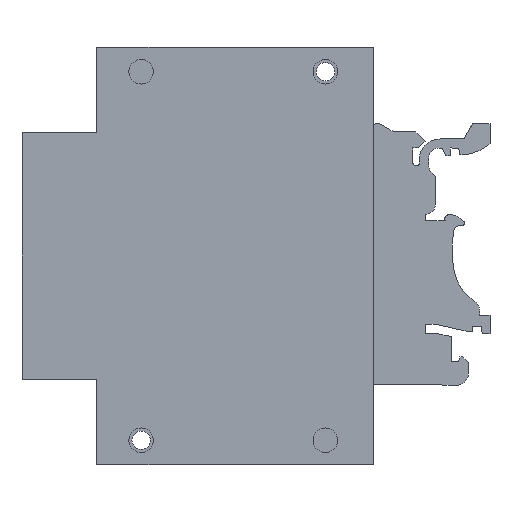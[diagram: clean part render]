
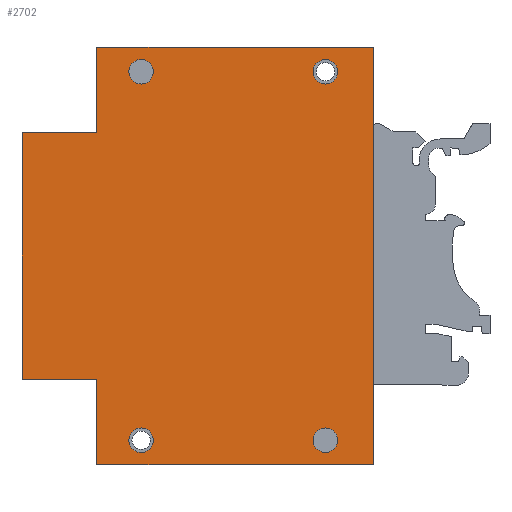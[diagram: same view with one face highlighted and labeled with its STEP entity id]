
A CAD part, left-side view. The second image highlights one B-rep face of the part: STEP entity #2702.
In plain terms, the highlighted planar face has unit normal (-1, 0, 0).
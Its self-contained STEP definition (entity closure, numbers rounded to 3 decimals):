
#245=DIRECTION('',(0.,0.,1.));
#246=VECTOR('',#245,68.);
#247=CARTESIAN_POINT('',(0.,0.,-34.));
#248=LINE('',#247,#246);
#440=DIRECTION('',(0.,0.,1.));
#441=VECTOR('',#440,13.9);
#442=CARTESIAN_POINT('',(0.,45.,-34.));
#443=LINE('',#442,#441);
#496=DIRECTION('',(0.,0.,1.));
#497=VECTOR('',#496,13.9);
#498=CARTESIAN_POINT('',(0.,45.,20.1));
#499=LINE('',#498,#497);
#896=DIRECTION('',(0.,1.,0.));
#897=VECTOR('',#896,12.2);
#898=CARTESIAN_POINT('',(0.,45.,20.1));
#899=LINE('',#898,#897);
#903=DIRECTION('',(0.,1.,0.));
#904=VECTOR('',#903,12.2);
#905=CARTESIAN_POINT('',(0.,45.,-20.1));
#906=LINE('',#905,#904);
#910=DIRECTION('',(0.,1.,0.));
#911=VECTOR('',#910,45.);
#912=CARTESIAN_POINT('',(0.,0.,-34.));
#913=LINE('',#912,#911);
#917=CARTESIAN_POINT('',(0.,7.8,-30.));
#918=DIRECTION('',(-1.,0.,0.));
#919=DIRECTION('',(0.,0.,1.));
#920=AXIS2_PLACEMENT_3D('',#917,#918,#919);
#925=CARTESIAN_POINT('',(0.,7.8,-30.));
#926=DIRECTION('',(-1.,0.,0.));
#927=DIRECTION('',(0.,0.,-1.));
#928=AXIS2_PLACEMENT_3D('',#925,#926,#927);
#933=CARTESIAN_POINT('',(0.,37.8,-30.));
#934=DIRECTION('',(-1.,0.,0.));
#935=DIRECTION('',(0.,0.,1.));
#936=AXIS2_PLACEMENT_3D('',#933,#934,#935);
#941=CARTESIAN_POINT('',(0.,37.8,-30.));
#942=DIRECTION('',(-1.,0.,0.));
#943=DIRECTION('',(0.,0.,-1.));
#944=AXIS2_PLACEMENT_3D('',#941,#942,#943);
#949=CARTESIAN_POINT('',(0.,37.8,30.));
#950=DIRECTION('',(-1.,0.,0.));
#951=DIRECTION('',(0.,0.,1.));
#952=AXIS2_PLACEMENT_3D('',#949,#950,#951);
#957=CARTESIAN_POINT('',(0.,37.8,30.));
#958=DIRECTION('',(-1.,0.,0.));
#959=DIRECTION('',(0.,0.,-1.));
#960=AXIS2_PLACEMENT_3D('',#957,#958,#959);
#965=CARTESIAN_POINT('',(0.,7.8,30.));
#966=DIRECTION('',(-1.,0.,0.));
#967=DIRECTION('',(0.,0.,1.));
#968=AXIS2_PLACEMENT_3D('',#965,#966,#967);
#973=CARTESIAN_POINT('',(0.,7.8,30.));
#974=DIRECTION('',(-1.,0.,0.));
#975=DIRECTION('',(0.,0.,-1.));
#976=AXIS2_PLACEMENT_3D('',#973,#974,#975);
#988=DIRECTION('',(0.,0.,1.));
#989=VECTOR('',#988,40.2);
#990=CARTESIAN_POINT('',(0.,57.2,-20.1));
#991=LINE('',#990,#989);
#1023=DIRECTION('',(0.,1.,0.));
#1024=VECTOR('',#1023,45.);
#1025=CARTESIAN_POINT('',(0.,0.,34.));
#1026=LINE('',#1025,#1024);
#1975=CARTESIAN_POINT('',(0.,0.,-34.));
#1976=CARTESIAN_POINT('',(0.,0.,34.));
#1977=VERTEX_POINT('',#1975);
#1978=VERTEX_POINT('',#1976);
#1979=CARTESIAN_POINT('',(0.,45.,-34.));
#1980=VERTEX_POINT('',#1979);
#1981=CARTESIAN_POINT('',(0.,45.,34.));
#1982=VERTEX_POINT('',#1981);
#1983=CARTESIAN_POINT('',(0.,57.2,-20.1));
#1984=CARTESIAN_POINT('',(0.,57.2,20.1));
#1985=VERTEX_POINT('',#1983);
#1986=VERTEX_POINT('',#1984);
#1991=CARTESIAN_POINT('',(0.,45.,20.1));
#1993=VERTEX_POINT('',#1991);
#1995=CARTESIAN_POINT('',(0.,45.,-20.1));
#1997=VERTEX_POINT('',#1995);
#2179=CARTESIAN_POINT('',(0.,7.8,-28.));
#2180=CARTESIAN_POINT('',(0.,7.8,-32.));
#2181=VERTEX_POINT('',#2179);
#2182=VERTEX_POINT('',#2180);
#2183=CARTESIAN_POINT('',(0.,37.8,-28.));
#2184=CARTESIAN_POINT('',(0.,37.8,-32.));
#2185=VERTEX_POINT('',#2183);
#2186=VERTEX_POINT('',#2184);
#2187=CARTESIAN_POINT('',(0.,37.8,32.));
#2188=CARTESIAN_POINT('',(0.,37.8,28.));
#2189=VERTEX_POINT('',#2187);
#2190=VERTEX_POINT('',#2188);
#2191=CARTESIAN_POINT('',(0.,7.8,32.));
#2192=CARTESIAN_POINT('',(0.,7.8,28.));
#2193=VERTEX_POINT('',#2191);
#2194=VERTEX_POINT('',#2192);
#2659=CARTESIAN_POINT('',(0.,0.,-34.));
#2660=DIRECTION('',(-1.,0.,0.));
#2661=DIRECTION('',(0.,0.,1.));
#2662=AXIS2_PLACEMENT_3D('',#2659,#2660,#2661);
#2663=PLANE('',#2662);
#2664=ORIENTED_EDGE('',*,*,#2333,.T.);
#2666=ORIENTED_EDGE('',*,*,#2665,.T.);
#2668=ORIENTED_EDGE('',*,*,#2667,.T.);
#2669=ORIENTED_EDGE('',*,*,#2651,.F.);
#2670=ORIENTED_EDGE('',*,*,#2347,.T.);
#2672=ORIENTED_EDGE('',*,*,#2671,.F.);
#2673=ORIENTED_EDGE('',*,*,#2266,.F.);
#2675=ORIENTED_EDGE('',*,*,#2674,.T.);
#2676=EDGE_LOOP('',(#2664,#2666,#2668,#2669,#2670,#2672,#2673,#2675));
#2677=FACE_OUTER_BOUND('',#2676,.F.);
#2679=ORIENTED_EDGE('',*,*,#2678,.T.);
#2681=ORIENTED_EDGE('',*,*,#2680,.T.);
#2682=EDGE_LOOP('',(#2679,#2681));
#2683=FACE_BOUND('',#2682,.F.);
#2685=ORIENTED_EDGE('',*,*,#2684,.T.);
#2687=ORIENTED_EDGE('',*,*,#2686,.T.);
#2688=EDGE_LOOP('',(#2685,#2687));
#2689=FACE_BOUND('',#2688,.F.);
#2691=ORIENTED_EDGE('',*,*,#2690,.T.);
#2693=ORIENTED_EDGE('',*,*,#2692,.T.);
#2694=EDGE_LOOP('',(#2691,#2693));
#2695=FACE_BOUND('',#2694,.F.);
#2697=ORIENTED_EDGE('',*,*,#2696,.T.);
#2699=ORIENTED_EDGE('',*,*,#2698,.T.);
#2700=EDGE_LOOP('',(#2697,#2699));
#2701=FACE_BOUND('',#2700,.F.);
#2702=ADVANCED_FACE('',(#2677,#2683,#2689,#2695,#2701),#2663,.T.);
#921=CIRCLE('',#920,2.);
#929=CIRCLE('',#928,2.);
#937=CIRCLE('',#936,2.);
#945=CIRCLE('',#944,2.);
#953=CIRCLE('',#952,2.);
#961=CIRCLE('',#960,2.);
#969=CIRCLE('',#968,2.);
#977=CIRCLE('',#976,2.);
#2266=EDGE_CURVE('',#1977,#1978,#248,.T.);
#2333=EDGE_CURVE('',#1980,#1997,#443,.T.);
#2347=EDGE_CURVE('',#1993,#1982,#499,.T.);
#2651=EDGE_CURVE('',#1993,#1986,#899,.T.);
#2665=EDGE_CURVE('',#1997,#1985,#906,.T.);
#2667=EDGE_CURVE('',#1985,#1986,#991,.T.);
#2671=EDGE_CURVE('',#1978,#1982,#1026,.T.);
#2674=EDGE_CURVE('',#1977,#1980,#913,.T.);
#2678=EDGE_CURVE('',#2181,#2182,#921,.T.);
#2680=EDGE_CURVE('',#2182,#2181,#929,.T.);
#2684=EDGE_CURVE('',#2185,#2186,#937,.T.);
#2686=EDGE_CURVE('',#2186,#2185,#945,.T.);
#2690=EDGE_CURVE('',#2189,#2190,#953,.T.);
#2692=EDGE_CURVE('',#2190,#2189,#961,.T.);
#2696=EDGE_CURVE('',#2193,#2194,#969,.T.);
#2698=EDGE_CURVE('',#2194,#2193,#977,.T.);
